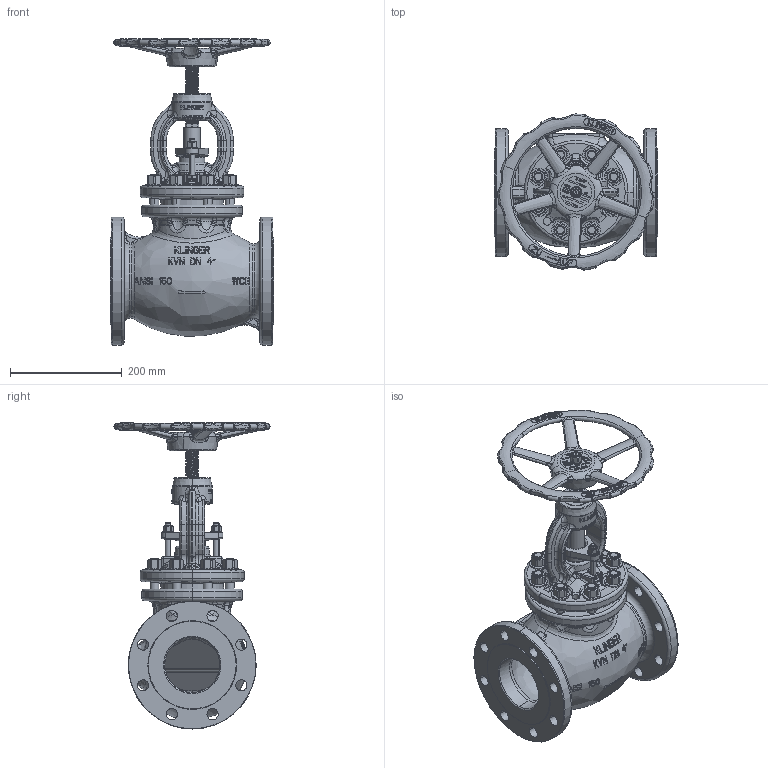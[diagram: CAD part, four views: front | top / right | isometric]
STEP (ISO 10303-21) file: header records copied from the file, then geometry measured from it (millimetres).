
FILE_DESCRIPTION((''),'2;1');
FILE_NAME('KVNFL-4-S-----C150PGG_SW0001','2026-09-28T13:19:50',('jeitlers'),('KLINGER'),'CREO PARAMETRIC BY PTC INC, 2025443','CREO PARAMETRIC BY PTC INC, 2025443','');
FILE_SCHEMA(('CONFIG_CONTROL_DESIGN'));
Products named in the file (1): KVNFL-4-S-----C150PGG_SW0001
Bounding box: 292 x 279.24 x 547.6 mm (x, y, z)
Volume: 6104174.4 mm3; surface area: 985619.5 mm2
Topology: 3 solids, 13 shells, 4721 faces, 12380 edges, 7823 vertices
Faces by surface type: plane 2639, bspline 781, cylinder 680, torus 351, cone 246, sphere 24
Entity records: 267392 total; most frequent: CARTESIAN_POINT 158684, ORIENTED_EDGE 24756, DIRECTION 19785, EDGE_CURVE 12378, VERTEX_POINT 7823, AXIS2_PLACEMENT_3D 6960, VECTOR 5865, LINE 5865
